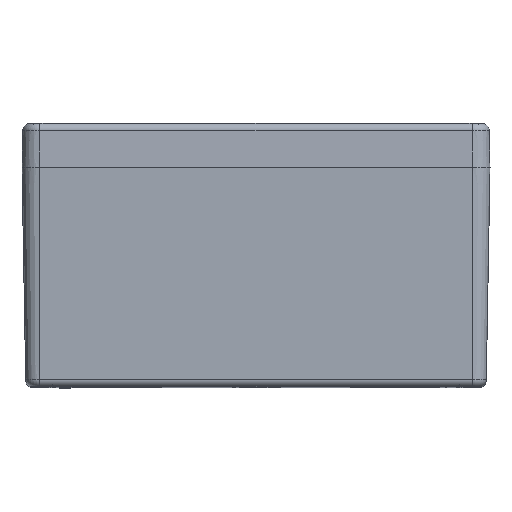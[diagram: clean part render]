
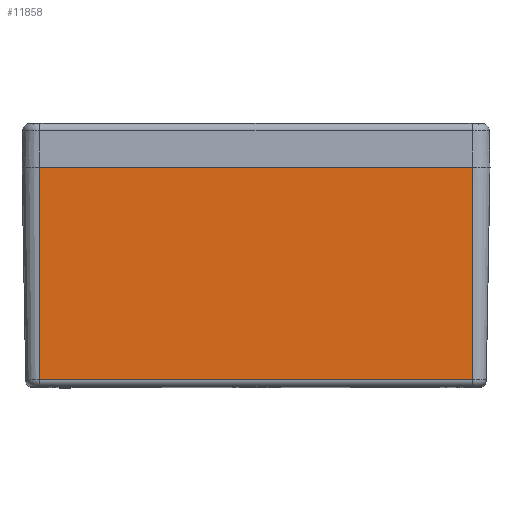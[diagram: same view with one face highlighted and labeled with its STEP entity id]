
A CAD part, top view. The second image highlights one B-rep face of the part: STEP entity #11858.
In plain terms, the highlighted planar face has unit normal (0, -0.018, 1).
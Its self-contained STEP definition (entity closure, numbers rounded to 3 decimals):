
#711 = LINE ( 'NONE', #31301, #16691 ) ;
#1160 = VERTEX_POINT ( 'NONE', #4112 ) ;
#4093 = EDGE_CURVE ( 'NONE', #1160, #34071, #711, .T. ) ;
#4112 = CARTESIAN_POINT ( 'NONE',  ( -74., 0., 120. ) ) ;
#4331 = CARTESIAN_POINT ( 'NONE',  ( 74., -72.544, 118.734 ) ) ;
#7773 = CARTESIAN_POINT ( 'NONE',  ( -74., -72.544, 118.734 ) ) ;
#8377 = ORIENTED_EDGE ( 'NONE', *, *, #10449, .T. ) ;
#8907 = DIRECTION ( 'NONE',  ( 0., -0.017, 1. ) ) ;
#9412 = CARTESIAN_POINT ( 'NONE',  ( 74., 0., 120. ) ) ;
#10315 = EDGE_CURVE ( 'NONE', #15788, #34071, #20863, .T. ) ;
#10439 = EDGE_CURVE ( 'NONE', #26540, #1160, #24369, .T. ) ;
#10449 = EDGE_CURVE ( 'NONE', #26540, #15788, #41355, .T. ) ;
#11305 = ORIENTED_EDGE ( 'NONE', *, *, #4093, .F. ) ;
#11368 = PLANE ( 'NONE',  #15412 ) ;
#11858 = ADVANCED_FACE ( 'NONE', ( #17278 ), #11368, .T. ) ;
#15412 = AXIS2_PLACEMENT_3D ( 'NONE', #36629, #8907, #30971 ) ;
#15788 = VERTEX_POINT ( 'NONE', #4331 ) ;
#15975 = VECTOR ( 'NONE', #30110, 1000. ) ;
#16691 = VECTOR ( 'NONE', #34491, 1000. ) ;
#17278 = FACE_OUTER_BOUND ( 'NONE', #17752, .T. ) ;
#17333 = CARTESIAN_POINT ( 'NONE',  ( -74., 0., 120. ) ) ;
#17752 = EDGE_LOOP ( 'NONE', ( #22489, #8377, #38890, #11305 ) ) ;
#19349 = CARTESIAN_POINT ( 'NONE',  ( 74., 0., 120. ) ) ;
#20863 = LINE ( 'NONE', #19349, #30350 ) ;
#22489 = ORIENTED_EDGE ( 'NONE', *, *, #10439, .F. ) ;
#24369 = LINE ( 'NONE', #17333, #15975 ) ;
#25791 = DIRECTION ( 'NONE',  ( 0., 1., 0.017 ) ) ;
#26540 = VERTEX_POINT ( 'NONE', #7773 ) ;
#30110 = DIRECTION ( 'NONE',  ( 0., 1., 0.017 ) ) ;
#30350 = VECTOR ( 'NONE', #25791, 1000. ) ;
#30971 = DIRECTION ( 'NONE',  ( 0., -1., -0.017 ) ) ;
#31301 = CARTESIAN_POINT ( 'NONE',  ( -74., 0., 120. ) ) ;
#32783 = VECTOR ( 'NONE', #39756, 1000. ) ;
#34071 = VERTEX_POINT ( 'NONE', #9412 ) ;
#34491 = DIRECTION ( 'NONE',  ( 1., 0., 0. ) ) ;
#36547 = CARTESIAN_POINT ( 'NONE',  ( 74., -72.544, 118.734 ) ) ;
#36629 = CARTESIAN_POINT ( 'NONE',  ( -74., 0., 120. ) ) ;
#38890 = ORIENTED_EDGE ( 'NONE', *, *, #10315, .T. ) ;
#39756 = DIRECTION ( 'NONE',  ( 1., 0., 0. ) ) ;
#41355 = LINE ( 'NONE', #36547, #32783 ) ;
